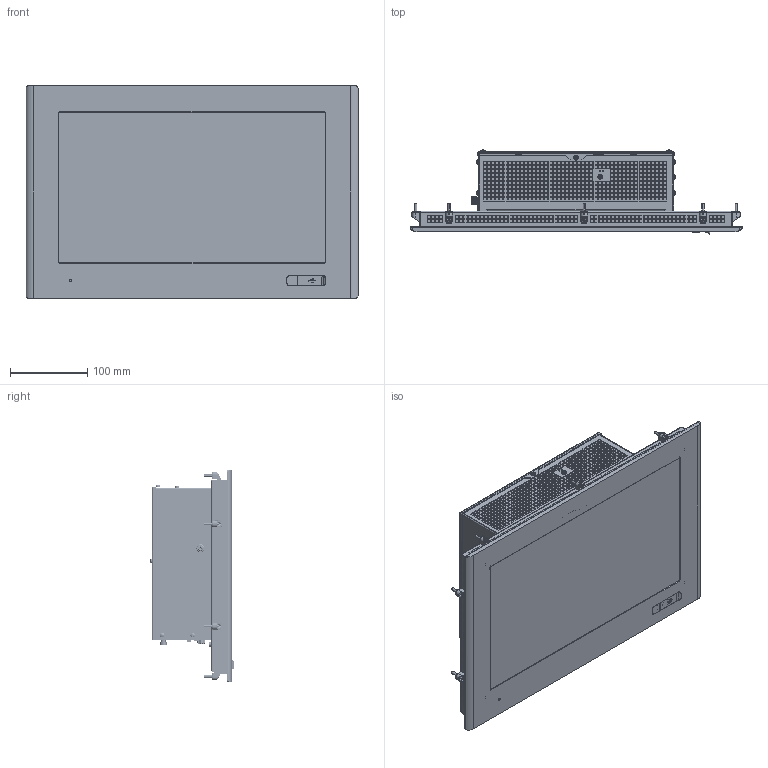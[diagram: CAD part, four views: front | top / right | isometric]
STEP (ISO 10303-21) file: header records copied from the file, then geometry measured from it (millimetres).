
FILE_DESCRIPTION((''),'2;1');
FILE_NAME('C6E22-Panel_156W_RES_S1','2017-03-07T',('manpal'),(''),'PRO/ENGINEER BY PARAMETRIC TECHNOLOGY CORPORATION, 2013410','PRO/ENGINEER BY PARAMETRIC TECHNOLOGY CORPORATION, 2013410','');
FILE_SCHEMA(('AUTOMOTIVE_DESIGN { 1 0 10303 214 1 1 1 1 }'));
Products named in the file (3): C6E22-Panel_156W_RES_S1_
Assembly tree (2 placements, depth 2):
  C6E22-Panel_156W_RES_S1_
    C6E22-Panel_156W_RES_S1_
    C6E22-Panel_156W_RES_S1_
Bounding box: 430 x 108.62 x 275 mm (x, y, z)
Surface area: 808599.4 mm2 (no closed solid volume)
Topology: 0 solids, 363 shells, 6161 faces, 24974 edges, 18965 vertices
Faces by surface type: plane 4862, cylinder 744, cone 299, bspline 167, torus 43, sphere 42, extrusion 4
Entity records: 287933 total; most frequent: CARTESIAN_POINT 67356, DIRECTION 38796, ORIENTED_EDGE 36685, EDGE_CURVE 24926, VECTOR 20436, LINE 20432, VERTEX_POINT 18965, AXIS2_PLACEMENT_3D 9180
